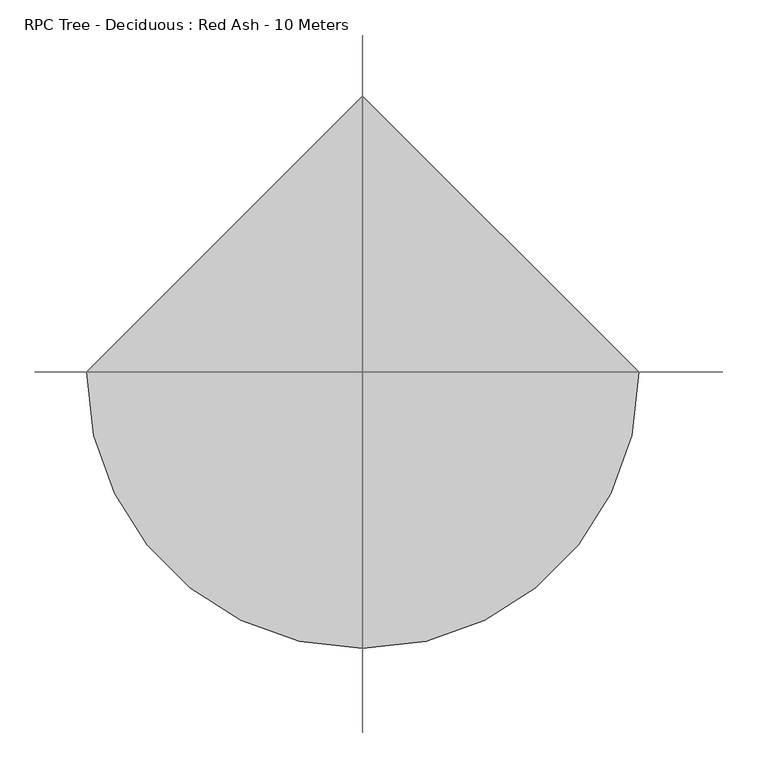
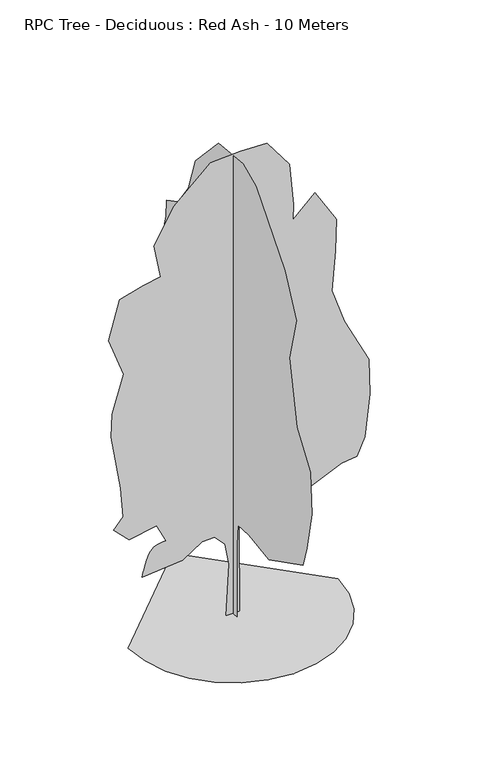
"""IFC4 building model written with IfcOpenShell, lengths in millimetres: geographic element geometry, RPC Tree - Deciduous : Red Ash - 10 Meters."""

from ifc_helpers import new_model, si_unit, origin, place, context, project, spatial, triangles, source, transform, mapped, element, save


def rpc_tree_deciduous_red_ash_10_meters_836d61de(model_context):
    return source(origin(), model_context, "Body", "Tessellation", [
        triangles([(-2158.7304428, 0.0, 8.12e-05), (-2101.6602345, -494.6382671, 8.12e-05), (-1939.1265507, -948.8843777, 8.12e-05), (-1684.14226, -1349.7235737, 8.12e-05), (-1349.723719, -1684.1425507, 8.12e-05), (-948.884087, -1939.1261147, 8.12e-05), (-494.6380491, -2101.6602345, 8.12e-05), (9.44e-05, -2158.7304428, 8.12e-05), (494.6383035, -2101.6603798, 8.12e-05), (948.8844503, -1939.1264053, 8.12e-05), (1349.723719, -1684.14226, 8.12e-05), (1684.1428413, -1349.723719, 8.12e-05), (1939.12626, -948.8840143, 8.12e-05), (2101.6602345, -494.6379401, 8.12e-05), (2158.7304428, 0.0001887, 8.12e-05), (-0.0002831, 2158.7304428, 8.12e-05), (-1.41e-05, -134.968842, 0.0), (3.29e-05, -132.8697059, 1567.6562016), (4.24e-05, -170.4487711, 2018.1141712), (9e-07, -575.8863602, 2044.836668), (-7.58e-05, -1281.3534737, 1940.0353615), (-0.0001844, -2498.2844261, 2557.3191948), (-0.0001854, -2639.3778488, 3015.8728912), (-0.0001786, -2815.7446999, 3862.4334274), (-0.0001468, -2762.8351387, 4744.2679733), (-7.63e-05, -2283.9659672, 5434.4060806), (-7.2e-06, -2004.4602081, 6772.486615), (-4.6e-06, -2251.3715904, 7724.8674362), (6.29e-05, -1845.7283272, 8571.4285538), (0.0002059, -822.8010126, 9788.3595062), (0.0002606, -358.5310953, 9997.6304535), (0.0003494, 517.5874114, 9911.8170868), (0.0004096, 1346.5117058, 9029.9825409), (0.0004132, 1593.4255589, 8289.2417084), (0.0004361, 1963.7943764, 7760.1408646), (0.0004721, 2369.4398197, 7548.5014572), (0.0004634, 2387.0763885, 7195.7671738), (0.0004624, 2492.8966736, 6790.1233292), (0.0004298, 2316.5298225, 6313.9332092), (0.0004327, 2475.2599594, 5855.3798035), (0.0004303, 2633.9900963, 5220.459256), (0.0004214, 2598.7169586, 5044.0915329), (0.0003775, 2298.893399, 4620.8112648), (0.0003582, 2279.9364166, 4038.8005692), (0.0003454, 2263.6198254, 3668.4301529), (0.0003336, 2281.2565395, 3209.8767471), (0.0003165, 2298.8935444, 2574.9564903), (0.000285, 2051.9796913, 2380.9524891), (0.0002372, 1593.4261402, 2380.9524891), (0.0002398, 1805.0662743, 1728.3952274), (0.0002251, 1769.6786087, 1358.11623), (0.000199, 1447.5473991, 1611.3339134), (0.0001294, 826.066511, 1452.37225), (0.0001286, 724.031242, 1780.9199284), (8.25e-05, 283.350092, 1776.9063652), (6.59e-05, 171.6551655, 1611.9876526), (4.29e-05, 104.3954538, 1073.8624323), (1.54e-05, 147.1994908, 1.68e-05), (-145.4998307, 6.4e-06, 5.85e-05), (-87.5478629, -0.0001266, 1093.834251), (-169.6946202, -0.0001784, 1558.9810043), (-381.6113726, -0.0001969, 1791.7554588), (-634.6935265, -0.0001848, 1783.0661636), (-1044.9708818, -0.0001351, 1516.7550934), (-1873.8950672, -9.05e-05, 1446.2085274), (-1862.4287613, -9.64e-05, 1491.817226), (-1850.1909908, -0.0001026, 1538.9682724), (-1836.4107273, -0.0001092, 1589.2043049), (-1820.3166515, -0.0001164, 1644.0686886), (-1801.1375896, -0.0001245, 1705.1020271), (-1778.1019318, -0.0001337, 1773.849575), (-1750.438504, -0.0001442, 1851.851936), (-1715.5766785, -0.0001544, 1924.1985374), (-1672.3846928, -0.0001626, 1977.1085346), (-1622.2512703, -0.0001692, 2013.8211193), (-1566.5644077, -0.0001744, 2037.5772274), (-1506.7129738, -0.0001787, 2051.6141613), (-1444.0843838, -0.0001823, 2059.1727116), (-1380.0677971, -0.0001857, 2063.49207), (-1574.0710716, -0.0002234, 2451.4992004), (-2138.4453438, -0.0001862, 2345.6790607), (-2455.9050362, -0.0002101, 2663.1397705), (-2261.9016163, -0.0002459, 2892.4167641), (-2314.8116135, -0.0003193, 3527.3373116), (-2508.8151787, -0.0004517, 4708.994545), (-2491.4447273, -0.0005108, 5198.3797897), (-2257.1096123, -0.0006152, 5988.6164383), (-2561.7253212, -0.0007017, 6825.3967575), (-2332.448037, -0.0008084, 7636.6844467), (-1856.2582077, -0.000846, 7777.7775787), (-1493.9806114, -0.0008695, 7841.6829803), (-1626.9815048, -0.0009486, 8553.7918396), (-1221.3373695, -0.0010525, 9276.8965393), (-462.9597138, -0.0011677, 9964.7266479), (154.323738, -0.0011988, 10000.0000763), (701.0613504, -0.0012206, 9982.3627808), (1159.6151196, -0.0011671, 9365.0795288), (1243.926543, -0.001063, 8461.3096939), (1231.8201599, -0.001023, 8129.8816681), (1688.715382, -0.0010935, 8553.7918396), (2129.632655, -0.0010266, 7830.6877213), (2111.9960861, -0.0009444, 7147.6503433), (2033.4087318, -0.0008399, 6300.0683578), (2288.3627918, -0.0007623, 5555.5556625), (2797.5905754, -0.000665, 4552.7532097), (2813.8259216, -0.0005756, 3796.3380432), (2711.6429146, -0.0004633, 2892.4164734), (2552.9127777, -0.0004122, 2522.0457664), (2235.452504, -0.0003942, 2486.7726288), (1618.168816, -0.0003335, 2204.5854927), (1071.4311127, -0.0002634, 1816.5785076), (337.895727, -0.0002689, 2131.9800407), (122.1140034, -0.0002318, 1899.7831673), (136.6866695, -6e-06, 4.62e-05)], [[15, 16, 1], [14, 15, 1], [14, 1, 2], [13, 14, 2], [13, 2, 3], [13, 3, 4], [12, 13, 4], [11, 12, 4], [11, 4, 5], [11, 5, 6], [11, 6, 7], [11, 7, 8], [11, 8, 9], [11, 9, 10], [50, 51, 52], [57, 58, 17], [57, 17, 18], [56, 57, 18], [56, 18, 19], [55, 56, 19], [49, 50, 52], [52, 53, 54], [49, 52, 54], [35, 36, 37], [46, 47, 48], [46, 48, 49], [21, 22, 23], [20, 21, 23], [20, 23, 24], [20, 24, 25], [20, 25, 26], [19, 20, 26], [19, 26, 27], [45, 46, 49], [31, 32, 33], [30, 31, 33], [29, 30, 33], [29, 33, 34], [28, 29, 34], [27, 28, 34], [19, 27, 34], [19, 34, 35], [19, 35, 37], [19, 37, 38], [19, 38, 39], [19, 39, 40], [19, 40, 41], [19, 41, 42], [19, 42, 43], [19, 43, 44], [19, 44, 45], [19, 45, 49], [19, 49, 54], [55, 19, 54], [64, 65, 66], [64, 66, 67], [64, 67, 68], [99, 100, 101], [64, 68, 69], [64, 69, 70], [64, 70, 71], [114, 59, 60], [113, 114, 60], [113, 60, 61], [113, 61, 62], [64, 71, 72], [64, 72, 73], [64, 73, 74], [64, 74, 75], [64, 75, 76], [64, 76, 77], [64, 77, 78], [64, 78, 79], [63, 64, 79], [81, 82, 83], [80, 81, 83], [99, 101, 102], [107, 108, 109], [110, 111, 112], [88, 89, 90], [87, 88, 90], [87, 90, 91], [80, 83, 84], [95, 96, 97], [95, 97, 98], [94, 95, 98], [93, 94, 98], [92, 93, 98], [91, 92, 98], [91, 98, 99], [87, 91, 99], [87, 99, 102], [87, 102, 103], [87, 103, 104], [86, 87, 104], [85, 86, 104], [84, 85, 104], [80, 84, 104], [80, 104, 105], [80, 105, 106], [80, 106, 107], [80, 107, 109], [80, 109, 110], [80, 110, 112], [79, 80, 112], [63, 79, 112], [62, 63, 112], [113, 62, 112]], closed=False),
    ])


if __name__ == "__main__":
    model = new_model("IFC4")
    model_context = context("Model", 3, world=origin())
    ifc_project = project(units=[si_unit("LENGTHUNIT", "METRE", prefix="MILLI")], contexts=[model_context])
    site = spatial("IfcSite", under=ifc_project)
    building = spatial("IfcBuilding", under=site)
    placement = place(None, origin())
    rpc_tree_deciduous_red_ash_10_meters_shape = rpc_tree_deciduous_red_ash_10_meters_836d61de(model_context)
    element("IfcGeographicElement", 1, ObjectType="RPC Tree - Deciduous : Red Ash - 10 Meters", at=placement, inside=building, context=model_context, shape_type="MappedRepresentation", body=[
        mapped(rpc_tree_deciduous_red_ash_10_meters_shape, transform((0.0, 0.0, 0.0), x_axis=(1.0, 0.0, 0.0), y_axis=(0.0, 1.0, 0.0), z_axis=(0.0, 0.0, 1.0))),
    ])
    save(model, "model.ifc")
